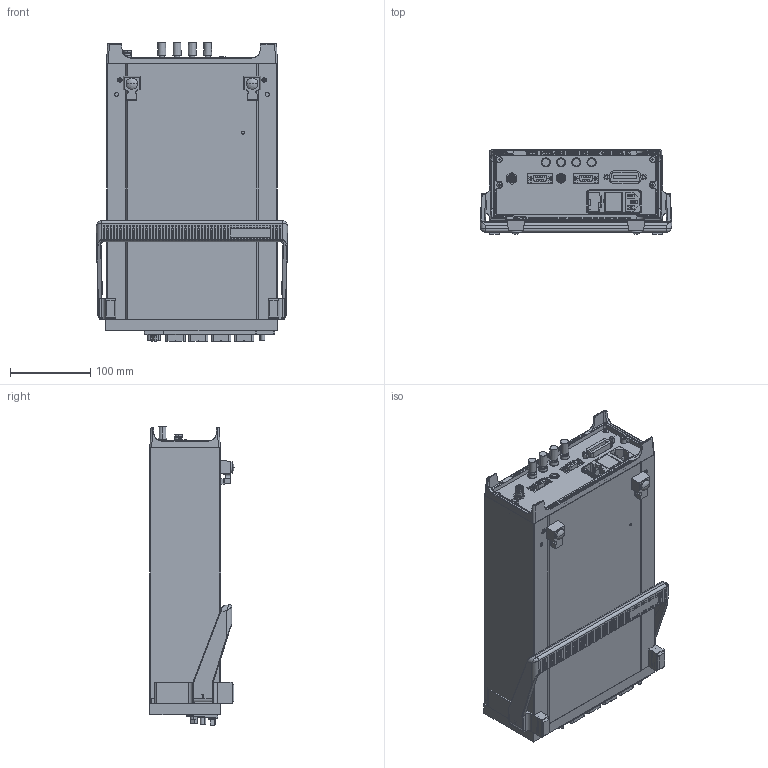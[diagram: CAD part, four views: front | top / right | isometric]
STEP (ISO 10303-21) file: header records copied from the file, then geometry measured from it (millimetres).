
FILE_DESCRIPTION((''),'2;1');
FILE_NAME('6514_ASM','2019-07-01T',('ngratzl'),(''),'CREO PARAMETRIC BY PTC INC, 2016050','CREO PARAMETRIC BY PTC INC, 2016050','');
FILE_SCHEMA(('CONFIG_CONTROL_DESIGN'));
Length unit declared in the file: inch
Products named in the file (44): 6514-301; 6514-303; 6514-317; BP-11-0; PM-1-1; 428-303; 2001-302; 2001-371; 2001-318; 6514-313; 6514-319; TR-330-NOWIRE; 2001-320; 428-328; 6514-102; 6514-102-TOP-COMP; 6514-102-BOT-COMP; 6514-102_ASM; CS-995; CS-792; CS-501; CS-784-4; CS-784-7; CS-724-3; CS-368-16; 6514-310; ST-166-12; 6514-309; CS-1027; CS-784-5; 6514-100_ASM; 2000-307; GCS-1; CS-713; FA-232-1; 428-319; FE-6; CS-725; 6-32X3-8PFH; 4-40X1-4PFH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
Assembly tree (62 placements, depth 4):
  6514_ASM
    6514-301
    6514-303
    6514-317  x2
    BP-11-0  x4
    PM-1-1
    428-303
    2001-302
    2001-371  x2
    2001-318
    6514-313
    6514-319
    TR-330-NOWIRE
    2001-320
    428-328  x2
    6514-100_ASM
      6514-102_ASM
        6514-102
        6514-102-TOP-COMP
        6514-102-BOT-COMP
      CS-995
      CS-792
      CS-501
      CS-784-4
      CS-784-7
      CS-724-3
      CS-368-16
      6514-310
      ST-166-12  x2
      6514-309
      CS-1027  x2
      CS-784-5
    2000-307
    GCS-1
    CS-713  x2
    FA-232-1  x2
    428-319  x2
    FE-6  x2
    CS-725  x4
    6-32X3-8PFH  x2
    4-40X1-4PFH  x2
    FA-230-2  x2
    FE-22  x2
    428-329-PLEXUS
Bounding box: 238.98 x 105.44 x 373.25 mm (x, y, z)
Volume: 1089709.4 mm3; surface area: 1020168.4 mm2
Topology: 62 solids, 62 shells, 7933 faces, 21348 edges, 14002 vertices
Faces by surface type: plane 6114, cylinder 1537, cone 118, bspline 104, torus 44, sphere 16
Entity records: 284249 total; most frequent: CARTESIAN_POINT 49092, ORIENTED_EDGE 39688, DIRECTION 36599, EDGE_CURVE 19844, VECTOR 16503, LINE 16503, PRESENTATION_STYLE_ASSIGNMENT 15645, STYLED_ITEM 15645
